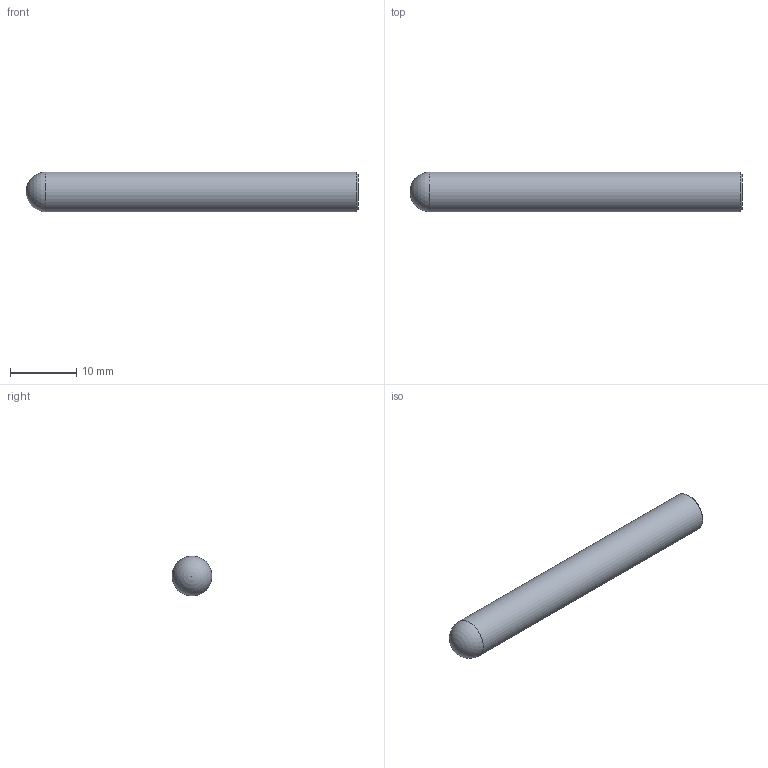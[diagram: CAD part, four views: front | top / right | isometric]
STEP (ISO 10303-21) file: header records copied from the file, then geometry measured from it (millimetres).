
FILE_DESCRIPTION(/* description */ (''),/* implementation_level */ '2;1');
FILE_NAME(/* name */ 'HSXB2060 0650.stp',/* time_stamp */ '2026-08-01T17:14:46+08:00',/* author */ (''),/* organization */ (''),/* preprocessor_version */ 'ST-DEVELOPER v16',/* originating_system */ 'SIEMENS PLM Software NX 10.0',/* authorisation */ '');
FILE_SCHEMA (('CONFIG_CONTROL_DESIGN'));
Length unit declared in the file: millimetre
Products named in the file (1): HSXB2060 0650_dxf
Bounding box: 50 x 6 x 6 mm (x, y, z)
Volume: 1384.6 mm3; surface area: 967.3 mm2
Topology: 1 solids, 1 shells, 4 faces, 8 edges, 5 vertices
Faces by surface type: plane 1, sphere 1, cylinder 1, cone 1
Full cylindrical faces by diameter (mm): 6 x1
Entity records: 158 total; most frequent: DIRECTION 16, CARTESIAN_POINT 11, AXIS2_PLACEMENT_3D 8, PERSON_AND_ORGANIZATION 7, ORGANIZATION 7, EDGE_LOOP 6, ORIENTED_EDGE 6, DATE_AND_TIME 5
